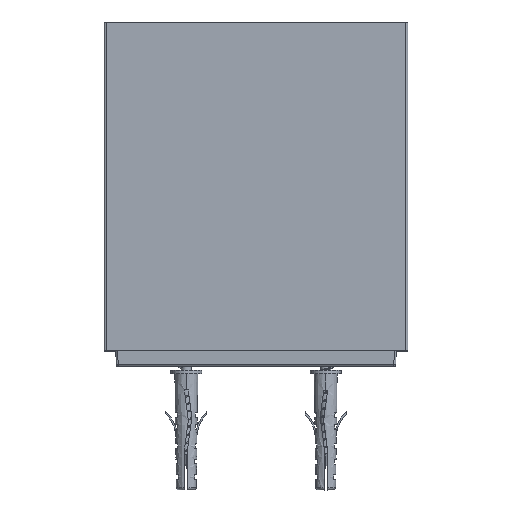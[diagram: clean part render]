
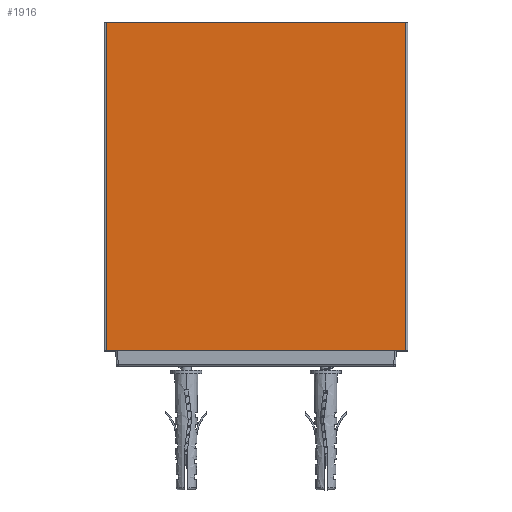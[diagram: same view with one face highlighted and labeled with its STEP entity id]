
A CAD part, top view. The second image highlights one B-rep face of the part: STEP entity #1916.
In plain terms, the highlighted planar face has unit normal (0, 0, 1).
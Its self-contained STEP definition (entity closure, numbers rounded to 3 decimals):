
#6=DIRECTION('',(1.,0.,0.));
#7=VECTOR('',#6,77.5);
#8=CARTESIAN_POINT('',(-38.75,0.,23.));
#9=LINE('',#8,#7);
#177=DIRECTION('',(0.,-1.,0.));
#178=VECTOR('',#177,85.);
#179=CARTESIAN_POINT('',(-38.75,85.,23.));
#180=LINE('',#179,#178);
#181=DIRECTION('',(0.,-1.,0.));
#182=VECTOR('',#181,85.);
#183=CARTESIAN_POINT('',(38.75,85.,23.));
#184=LINE('',#183,#182);
#217=DIRECTION('',(1.,0.,0.));
#218=VECTOR('',#217,77.5);
#219=CARTESIAN_POINT('',(-38.75,85.,23.));
#220=LINE('',#219,#218);
#1533=CARTESIAN_POINT('',(-38.75,0.,23.));
#1535=VERTEX_POINT('',#1533);
#1539=CARTESIAN_POINT('',(-38.75,85.,23.));
#1540=VERTEX_POINT('',#1539);
#1558=CARTESIAN_POINT('',(38.75,0.,23.));
#1560=VERTEX_POINT('',#1558);
#1561=CARTESIAN_POINT('',(38.75,85.,23.));
#1562=VERTEX_POINT('',#1561);
#1904=CARTESIAN_POINT('',(-39.25,0.,23.));
#1905=DIRECTION('',(0.,0.,1.));
#1906=DIRECTION('',(1.,0.,0.));
#1907=AXIS2_PLACEMENT_3D('',#1904,#1905,#1906);
#1908=PLANE('',#1907);
#1909=ORIENTED_EDGE('',*,*,#1803,.F.);
#1911=ORIENTED_EDGE('',*,*,#1910,.T.);
#1912=ORIENTED_EDGE('',*,*,#1896,.T.);
#1913=ORIENTED_EDGE('',*,*,#1758,.F.);
#1914=EDGE_LOOP('',(#1909,#1911,#1912,#1913));
#1915=FACE_OUTER_BOUND('',#1914,.F.);
#1916=ADVANCED_FACE('',(#1915),#1908,.T.);
#1758=EDGE_CURVE('',#1535,#1560,#9,.T.);
#1803=EDGE_CURVE('',#1540,#1535,#180,.T.);
#1896=EDGE_CURVE('',#1562,#1560,#184,.T.);
#1910=EDGE_CURVE('',#1540,#1562,#220,.T.);
